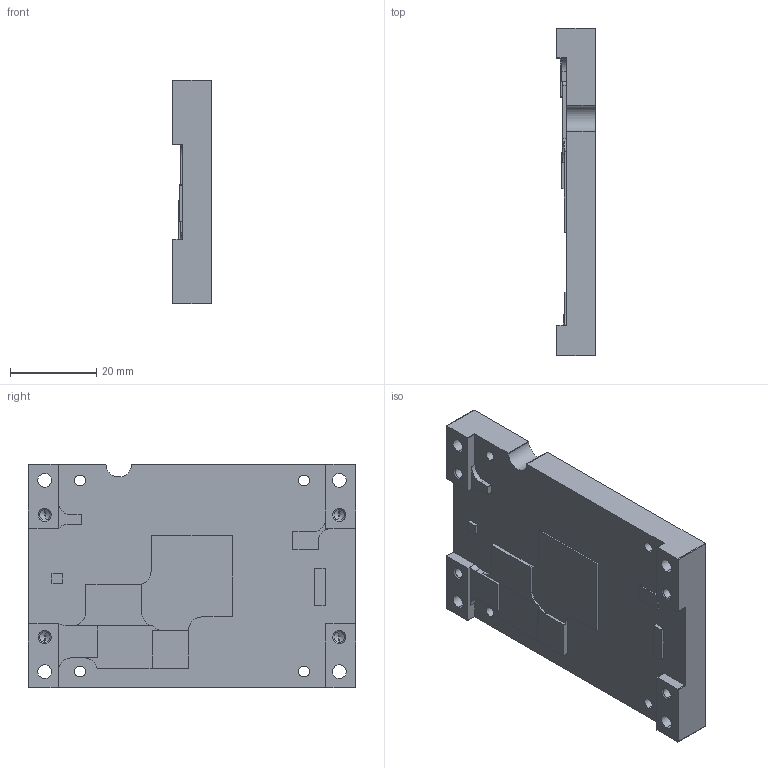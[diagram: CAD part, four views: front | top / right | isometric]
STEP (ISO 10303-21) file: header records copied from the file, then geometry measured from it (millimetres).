
FILE_DESCRIPTION (( 'STEP AP203' ), '1' );
FILE_NAME ('34050.STEP', '2024-10-29T19:01:52', ( '' ), ( '' ), 'SwSTEP 2.0', 'SolidWorks 2018', '' );
FILE_SCHEMA (( 'CONFIG_CONTROL_DESIGN' ));
Length unit declared in the file: millimetre
Products named in the file (1): 34050
Bounding box: 9 x 76 x 52 mm (x, y, z)
Volume: 27356.1 mm3; surface area: 10860 mm2
Topology: 1 solids, 1 shells, 167 faces, 454 edges, 287 vertices
Faces by surface type: cylinder 78, plane 57, cone 32
Entity records: 5342 total; most frequent: DIRECTION 963, CARTESIAN_POINT 901, ORIENTED_EDGE 892, EDGE_CURVE 446, AXIS2_PLACEMENT_3D 349, VERTEX_POINT 287, VECTOR 265, LINE 265
